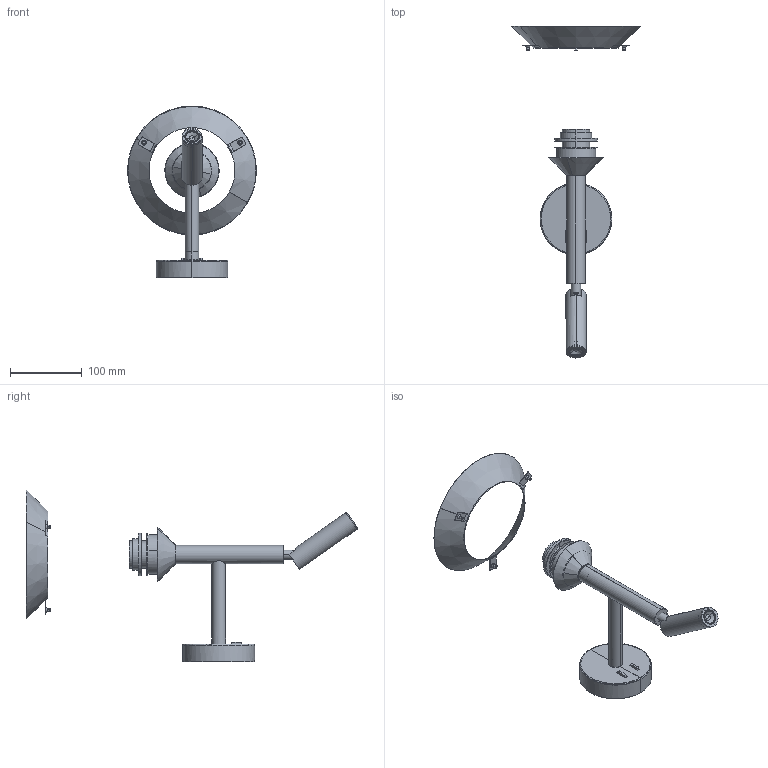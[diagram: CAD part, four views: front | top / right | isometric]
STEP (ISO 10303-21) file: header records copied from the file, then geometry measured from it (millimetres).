
FILE_DESCRIPTION(/* description */ (''),/* implementation_level */ '2;1');
FILE_NAME(/* name */ 'C:\Users\francosartori\Documents\Modelos\01_Indoor\1_SAVOY\03_Publicación\20302_20303\20303.stp',/* time_stamp */ '2020-05-21T11:19:39+02:00',/* author */ ('FrancoSartori'),/* organization */ (''),/* preprocessor_version */ 'ST-DEVELOPER v18.1',/* originating_system */ 'AutoCAD Mechanical',/* authorisation */ '');
FILE_SCHEMA (('AUTOMOTIVE_DESIGN { 1 0 10303 214 3 1 1 }'));
Length unit declared in the file: millimetre
Products named in the file (2): Product; 20302_20303_SAVOY - SAVOY STRUCTURE-438356-_3D_
Assembly tree (1 placements, depth 2):
  Product
    20302_20303_SAVOY - SAVOY STRUCTURE-438356-_3D_
Bounding box: 180 x 463.53 x 240 mm (x, y, z)
Volume: 138939.1 mm3; surface area: 189649.1 mm2
Topology: 15 solids, 16 shells, 336 faces, 786 edges, 489 vertices
Faces by surface type: plane 138, cylinder 126, cone 42, torus 22, bspline 5, sphere 3
Entity records: 11586 total; most frequent: CARTESIAN_POINT 3876, DIRECTION 1599, ORIENTED_EDGE 1544, EDGE_CURVE 784, AXIS2_PLACEMENT_3D 616, VERTEX_POINT 489, EDGE_LOOP 385, LINE 367
